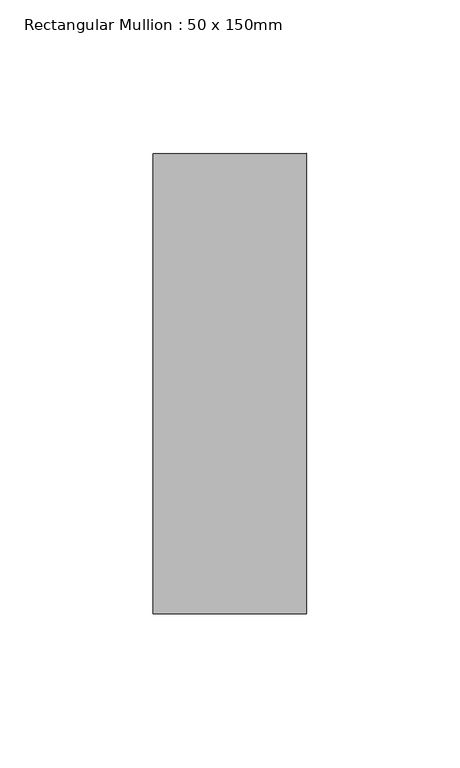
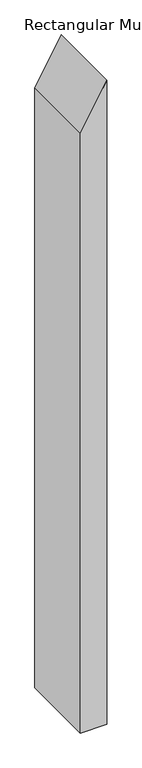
"""IFC4 building model written with IfcOpenShell, lengths in millimetres: member geometry, Rectangular Mullion : 50 x 150mm."""

from ifc_helpers import new_model, si_unit, frame, origin, place, context, project, spatial, polyline, outline, extrude, source, transform, mapped, element, save


def rectangular_mullion_50_x_150mm_b81a13e3(model_context):
    return source(origin(), model_context, "Body", "SweptSolid", [
        extrude(outline(polyline([(-57.9891014, 25.0), (-148.0767416, -25.0), (-1352.0625974, -25.0), (-1352.0625974, 25.0), (-57.9891014, 25.0)])), frame((0.0, -75.0, 0.0), z_axis=(0.0, 1.0, 0.0), x_axis=(0.0, 0.0, 1.0)), (0.0, 0.0, 1.0), 150.0),
    ])


if __name__ == "__main__":
    model = new_model("IFC4")
    model_context = context("Model", 3, world=origin())
    ifc_project = project(units=[si_unit("LENGTHUNIT", "METRE", prefix="MILLI")], contexts=[model_context])
    site = spatial("IfcSite", under=ifc_project)
    building = spatial("IfcBuilding", under=site)
    placement = place(None, origin())
    rectangular_mullion_50_x_150mm_shape = rectangular_mullion_50_x_150mm_b81a13e3(model_context)
    element("IfcMember", 1, ObjectType="Rectangular Mullion : 50 x 150mm", at=placement, inside=building, context=model_context, shape_type="MappedRepresentation", body=[
        mapped(rectangular_mullion_50_x_150mm_shape, transform((0.0, 0.0, 0.0), x_axis=(1.0, 0.0, 0.0), y_axis=(0.0, 1.0, 0.0), z_axis=(0.0, 0.0, 1.0))),
    ])
    save(model, "model.ifc")
